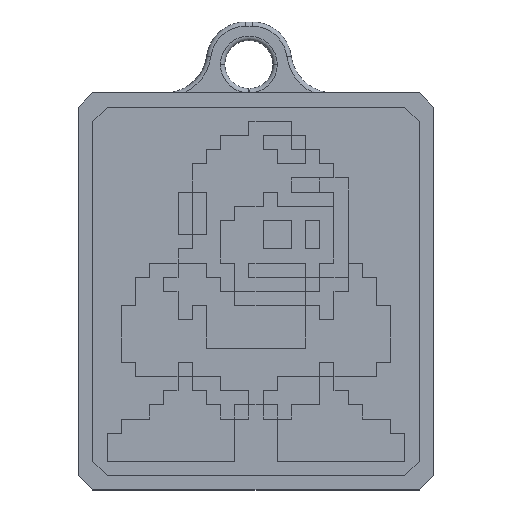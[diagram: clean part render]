
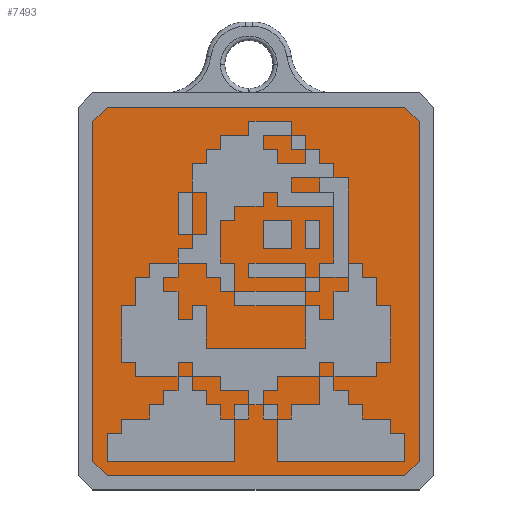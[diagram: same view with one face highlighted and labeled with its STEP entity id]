
A CAD part, top view. The second image highlights one B-rep face of the part: STEP entity #7493.
In plain terms, the highlighted planar face has unit normal (0, 0, 1).
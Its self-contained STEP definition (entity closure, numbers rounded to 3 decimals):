
#2 = VERTEX_POINT ( 'NONE', #528 ) ;
#17 = CARTESIAN_POINT ( 'NONE',  ( 0., -1.667, 1. ) ) ;
#19 = EDGE_CURVE ( 'NONE', #2669, #459, #4152, .T. ) ;
#58 = FACE_OUTER_BOUND ( 'NONE', #1880, .T. ) ;
#90 = ORIENTED_EDGE ( 'NONE', *, *, #249, .T. ) ;
#98 = DIRECTION ( 'NONE',  ( 1., 0., 0. ) ) ;
#131 = VERTEX_POINT ( 'NONE', #404 ) ;
#249 = EDGE_CURVE ( 'NONE', #459, #5382, #2215, .T. ) ;
#347 = CARTESIAN_POINT ( 'NONE',  ( 0., 41.665, 1. ) ) ;
#404 = CARTESIAN_POINT ( 'NONE',  ( -1.667, 0., 1. ) ) ;
#438 = EDGE_CURVE ( 'NONE', #2, #131, #6594, .T. ) ;
#459 = VERTEX_POINT ( 'NONE', #6018 ) ;
#489 = EDGE_CURVE ( 'NONE', #5382, #7380, #3227, .T. ) ;
#528 = CARTESIAN_POINT ( 'NONE',  ( -1.667, 39.998, 1. ) ) ;
#644 = LINE ( 'NONE', #5915, #3387 ) ;
#673 = DIRECTION ( 'NONE',  ( 1., 0., 0. ) ) ;
#674 = EDGE_CURVE ( 'NONE', #131, #2669, #7702, .T. ) ;
#981 = CARTESIAN_POINT ( 'NONE',  ( 34.999, -1.667, 1. ) ) ;
#1066 = ORIENTED_EDGE ( 'NONE', *, *, #5974, .T. ) ;
#1091 = VECTOR ( 'NONE', #4432, 1000. ) ;
#1251 = CARTESIAN_POINT ( 'NONE',  ( 0., 0., 1. ) ) ;
#1395 = VECTOR ( 'NONE', #5530, 1000. ) ;
#1499 = ORIENTED_EDGE ( 'NONE', *, *, #19, .T. ) ;
#1516 = CARTESIAN_POINT ( 'NONE',  ( -1.667, 39.998, 1. ) ) ;
#1880 = EDGE_LOOP ( 'NONE', ( #1066, #5566, #7395, #6275, #1499, #90, #5272, #5142 ) ) ;
#2017 = CARTESIAN_POINT ( 'NONE',  ( 36.665, 39.998, 1. ) ) ;
#2031 = VECTOR ( 'NONE', #98, 1000. ) ;
#2176 = VERTEX_POINT ( 'NONE', #347 ) ;
#2215 = LINE ( 'NONE', #981, #6173 ) ;
#2286 = EDGE_CURVE ( 'NONE', #2176, #2, #644, .T. ) ;
#2669 = VERTEX_POINT ( 'NONE', #17 ) ;
#3063 = CARTESIAN_POINT ( 'NONE',  ( -1.667, 0., 1. ) ) ;
#3124 = LINE ( 'NONE', #3678, #6122 ) ;
#3227 = LINE ( 'NONE', #5608, #1091 ) ;
#3387 = VECTOR ( 'NONE', #4808, 1000. ) ;
#3448 = VERTEX_POINT ( 'NONE', #5333 ) ;
#3636 = DIRECTION ( 'NONE',  ( 0., 0., 1. ) ) ;
#3654 = AXIS2_PLACEMENT_3D ( 'NONE', #1251, #3636, #673 ) ;
#3678 = CARTESIAN_POINT ( 'NONE',  ( 34.999, 41.665, 1. ) ) ;
#3737 = LINE ( 'NONE', #2017, #1395 ) ;
#4152 = LINE ( 'NONE', #6531, #2031 ) ;
#4218 = PLANE ( 'NONE',  #3654 ) ;
#4302 = CARTESIAN_POINT ( 'NONE',  ( 36.665, 39.998, 1. ) ) ;
#4432 = DIRECTION ( 'NONE',  ( 0., 1., 0. ) ) ;
#4453 = DIRECTION ( 'NONE',  ( 0.707, 0.707, 0. ) ) ;
#4468 = CARTESIAN_POINT ( 'NONE',  ( 36.665, 0., 1. ) ) ;
#4770 = DIRECTION ( 'NONE',  ( -1., 0., 0. ) ) ;
#4808 = DIRECTION ( 'NONE',  ( -0.707, -0.707, 0. ) ) ;
#4821 = EDGE_CURVE ( 'NONE', #7380, #3448, #3737, .T. ) ;
#4967 = VECTOR ( 'NONE', #5022, 1000. ) ;
#5022 = DIRECTION ( 'NONE',  ( 0., -1., 0. ) ) ;
#5142 = ORIENTED_EDGE ( 'NONE', *, *, #4821, .T. ) ;
#5272 = ORIENTED_EDGE ( 'NONE', *, *, #489, .T. ) ;
#5333 = CARTESIAN_POINT ( 'NONE',  ( 34.999, 41.665, 1. ) ) ;
#5366 = DIRECTION ( 'NONE',  ( 0.707, -0.707, 0. ) ) ;
#5382 = VERTEX_POINT ( 'NONE', #4468 ) ;
#5530 = DIRECTION ( 'NONE',  ( -0.707, 0.707, 0. ) ) ;
#5566 = ORIENTED_EDGE ( 'NONE', *, *, #2286, .T. ) ;
#5608 = CARTESIAN_POINT ( 'NONE',  ( 36.665, 0., 1. ) ) ;
#5915 = CARTESIAN_POINT ( 'NONE',  ( 0., 41.665, 1. ) ) ;
#5974 = EDGE_CURVE ( 'NONE', #3448, #2176, #3124, .T. ) ;
#6018 = CARTESIAN_POINT ( 'NONE',  ( 34.999, -1.667, 1. ) ) ;
#6122 = VECTOR ( 'NONE', #4770, 1000. ) ;
#6173 = VECTOR ( 'NONE', #4453, 1000. ) ;
#6275 = ORIENTED_EDGE ( 'NONE', *, *, #674, .T. ) ;
#6531 = CARTESIAN_POINT ( 'NONE',  ( 0., -1.667, 1. ) ) ;
#6594 = LINE ( 'NONE', #1516, #4967 ) ;
#6849 = VECTOR ( 'NONE', #5366, 1000. ) ;
#7380 = VERTEX_POINT ( 'NONE', #4302 ) ;
#7395 = ORIENTED_EDGE ( 'NONE', *, *, #438, .T. ) ;
#7493 = ADVANCED_FACE ( 'NONE', ( #58 ), #4218, .T. ) ;
#7702 = LINE ( 'NONE', #3063, #6849 ) ;
